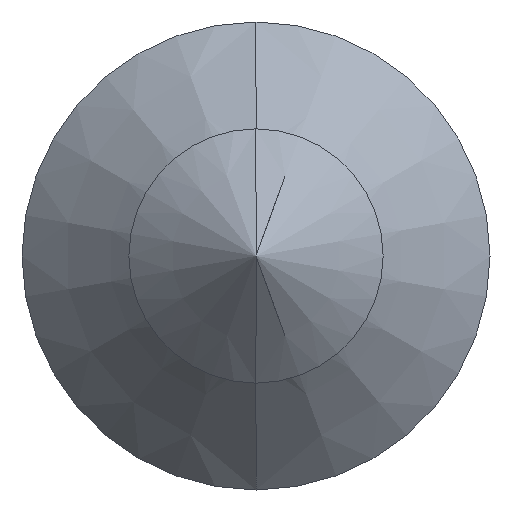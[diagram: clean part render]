
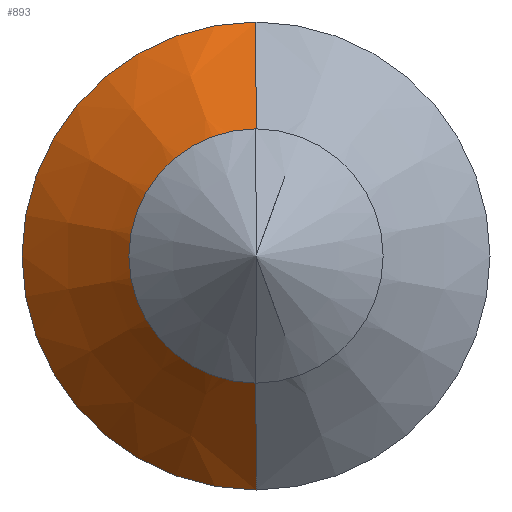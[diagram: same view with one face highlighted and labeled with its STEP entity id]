
A CAD part, left-side view. The second image highlights one B-rep face of the part: STEP entity #893.
In plain terms, the highlighted conical face has half-angle 45 degrees and reference radius 2.025 mm.
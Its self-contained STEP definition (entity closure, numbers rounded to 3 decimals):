
#28 = CIRCLE ( 'NONE', #670, 2.025 ) ;
#156 = EDGE_CURVE ( 'NONE', #1457, #1982, #596, .T. ) ;
#188 = CARTESIAN_POINT ( 'NONE',  ( -4.545, 0., 2.025 ) ) ;
#267 = LINE ( 'NONE', #1348, #1093 ) ;
#340 = CIRCLE ( 'NONE', #1243, 0.9 ) ;
#414 = EDGE_CURVE ( 'NONE', #1457, #2080, #340, .T. ) ;
#435 = FACE_OUTER_BOUND ( 'NONE', #1041, .T. ) ;
#464 = AXIS2_PLACEMENT_3D ( 'NONE', #1508, #1834, #1335 ) ;
#531 = VERTEX_POINT ( 'NONE', #1116 ) ;
#545 = DIRECTION ( 'NONE',  ( -1., 0., 0. ) ) ;
#580 = VECTOR ( 'NONE', #1795, 1000. ) ;
#596 = LINE ( 'NONE', #1948, #580 ) ;
#670 = AXIS2_PLACEMENT_3D ( 'NONE', #1582, #545, #1746 ) ;
#893 = ADVANCED_FACE ( 'NONE', ( #435 ), #2053, .T. ) ;
#926 = DIRECTION ( 'NONE',  ( -1., 0., 0. ) ) ;
#1041 = EDGE_LOOP ( 'NONE', ( #1315, #1966, #1684, #1925 ) ) ;
#1086 = CARTESIAN_POINT ( 'NONE',  ( -5.67, 0., -0.9 ) ) ;
#1093 = VECTOR ( 'NONE', #1517, 1000. ) ;
#1116 = CARTESIAN_POINT ( 'NONE',  ( -4.545, 0., -2.025 ) ) ;
#1182 = EDGE_CURVE ( 'NONE', #2080, #531, #267, .T. ) ;
#1243 = AXIS2_PLACEMENT_3D ( 'NONE', #1929, #926, #2071 ) ;
#1313 = EDGE_CURVE ( 'NONE', #1982, #531, #28, .T. ) ;
#1315 = ORIENTED_EDGE ( 'NONE', *, *, #414, .F. ) ;
#1335 = DIRECTION ( 'NONE',  ( 0., 0., -1. ) ) ;
#1348 = CARTESIAN_POINT ( 'NONE',  ( -4.545, 0., -2.025 ) ) ;
#1457 = VERTEX_POINT ( 'NONE', #2169 ) ;
#1508 = CARTESIAN_POINT ( 'NONE',  ( -4.545, 0., 0. ) ) ;
#1517 = DIRECTION ( 'NONE',  ( 0.707, 0., -0.707 ) ) ;
#1582 = CARTESIAN_POINT ( 'NONE',  ( -4.545, 0., 0. ) ) ;
#1684 = ORIENTED_EDGE ( 'NONE', *, *, #1313, .T. ) ;
#1746 = DIRECTION ( 'NONE',  ( 0., 0., 1. ) ) ;
#1795 = DIRECTION ( 'NONE',  ( 0.707, 0., 0.707 ) ) ;
#1834 = DIRECTION ( 'NONE',  ( 1., 0., 0. ) ) ;
#1925 = ORIENTED_EDGE ( 'NONE', *, *, #1182, .F. ) ;
#1929 = CARTESIAN_POINT ( 'NONE',  ( -5.67, 0., 0. ) ) ;
#1948 = CARTESIAN_POINT ( 'NONE',  ( -4.545, 0., 2.025 ) ) ;
#1966 = ORIENTED_EDGE ( 'NONE', *, *, #156, .T. ) ;
#1982 = VERTEX_POINT ( 'NONE', #188 ) ;
#2053 = CONICAL_SURFACE ( 'NONE', #464, 2.025, 0.785 ) ;
#2071 = DIRECTION ( 'NONE',  ( 0., 0., 1. ) ) ;
#2080 = VERTEX_POINT ( 'NONE', #1086 ) ;
#2169 = CARTESIAN_POINT ( 'NONE',  ( -5.67, 0., 0.9 ) ) ;
